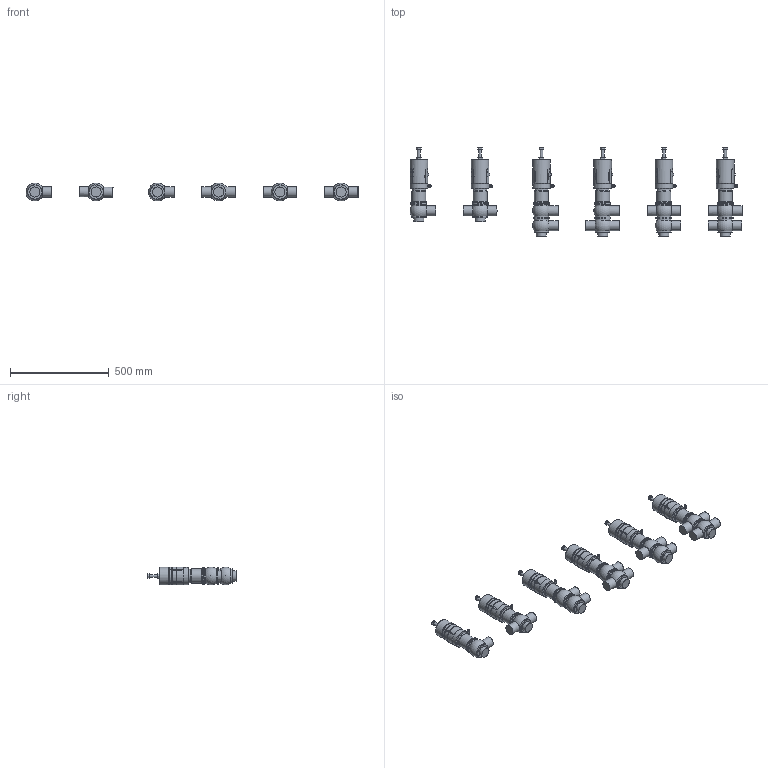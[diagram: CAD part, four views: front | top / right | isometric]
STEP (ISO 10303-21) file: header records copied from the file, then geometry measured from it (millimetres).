
FILE_DESCRIPTION((''),'2;1');
FILE_NAME('\\BV-SRV1\Ufficio tecnico\cad3d\PNEUMATICA\Ing1-1\pne bbzp e derivate\BBZS5\BBZS5-DN0508-CIL83-SAL.iam.step','2009-10-19T10:17:55',(''),(''),'Autodesk Inventor 2010','Autodesk Inventor 2010','');
FILE_SCHEMA(('AUTOMOTIVE_DESIGN { 1 0 10303 214 1 1 1 1 }'));
Length unit declared in the file: millimetre
Products named in the file (7): BBZS5-DN0508-CIL83-SAL; Assemblaggio-DN050; COR-INF-L-SAL-DN50; COR-INF-T-SAL-DN50; COR-SUP-L-SAL-DN50; COR-SUP-T-SAL-DN50; cil 83  tarabile
Assembly tree (22 placements, depth 2):
  BBZS5-DN0508-CIL83-SAL
    Assemblaggio-DN050  x6
    COR-INF-L-SAL-DN50  x3
    COR-INF-T-SAL-DN50  x3
    COR-SUP-L-SAL-DN50  x2
    COR-SUP-T-SAL-DN50  x2
    cil 83  tarabile  x6
Bounding box: 1679.75 x 447.8 x 89.5 mm (x, y, z)
Volume: 12833423.2 mm3; surface area: 997524.3 mm2
Topology: 22 solids, 52 shells, 1320 faces, 3092 edges, 1863 vertices
Faces by surface type: plane 491, cylinder 349, cone 266, bspline 90, sphere 82, torus 42
Full cylindrical faces by diameter (mm): 4.9 x6, 6 x12, 7 x6, 8.3 x6, 10 x6, 11 x6, 11.5 x6, 14 x18, 19.37 x6, 50.8 x21, 69 x6, 71 x6, 73 x26, 81 x20, 84.813 x18, 86 x12, 86.1 x6, 88.5 x6, 89.5 x6
Entity records: 7605 total; most frequent: CARTESIAN_POINT 2160, DIRECTION 1074, ORIENTED_EDGE 912, AXIS2_PLACEMENT_3D 459, EDGE_CURVE 456, EDGE_LOOP 352, VERTEX_POINT 316, FACE_OUTER_BOUND 249
